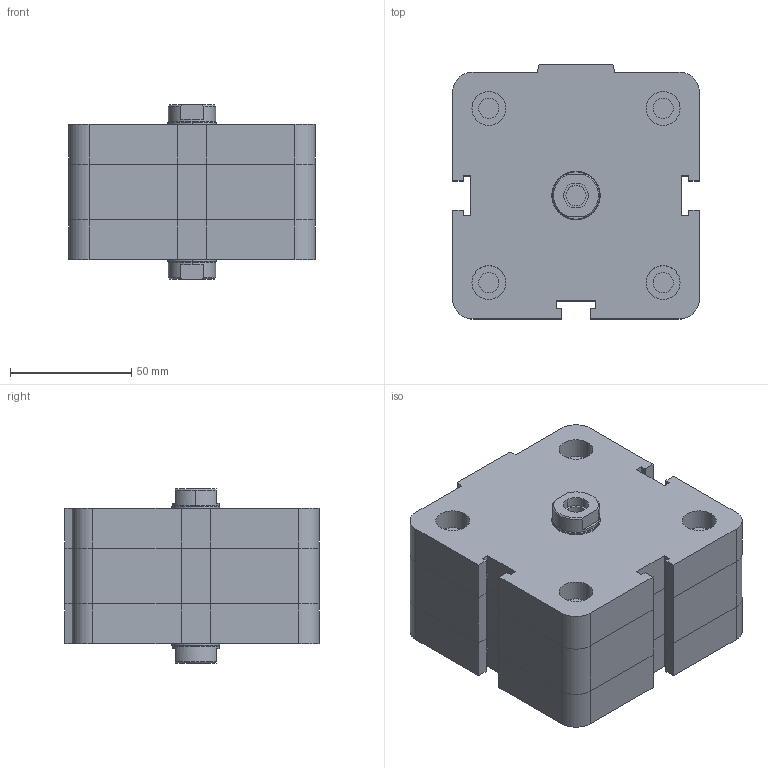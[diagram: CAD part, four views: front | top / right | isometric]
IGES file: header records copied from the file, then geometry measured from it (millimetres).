
Global section: file name: No Iges File Name specified; native system: Autodesk Inventor 2009; preprocessor: AutoDesk Inventor Iges Exporter R2009; author: maffial1; date: 20090420.200426; units: millimetre
Bounding box: 102 x 105 x 72 mm (x, y, z)
Volume: 551765.3 mm3; surface area: 61904.5 mm2
Topology: 2 solids, 2 shells, 202 faces, 450 edges, 274 vertices
Faces by surface type: plane 114, bspline 42, revolution 20, cylinder 18, cone 8
